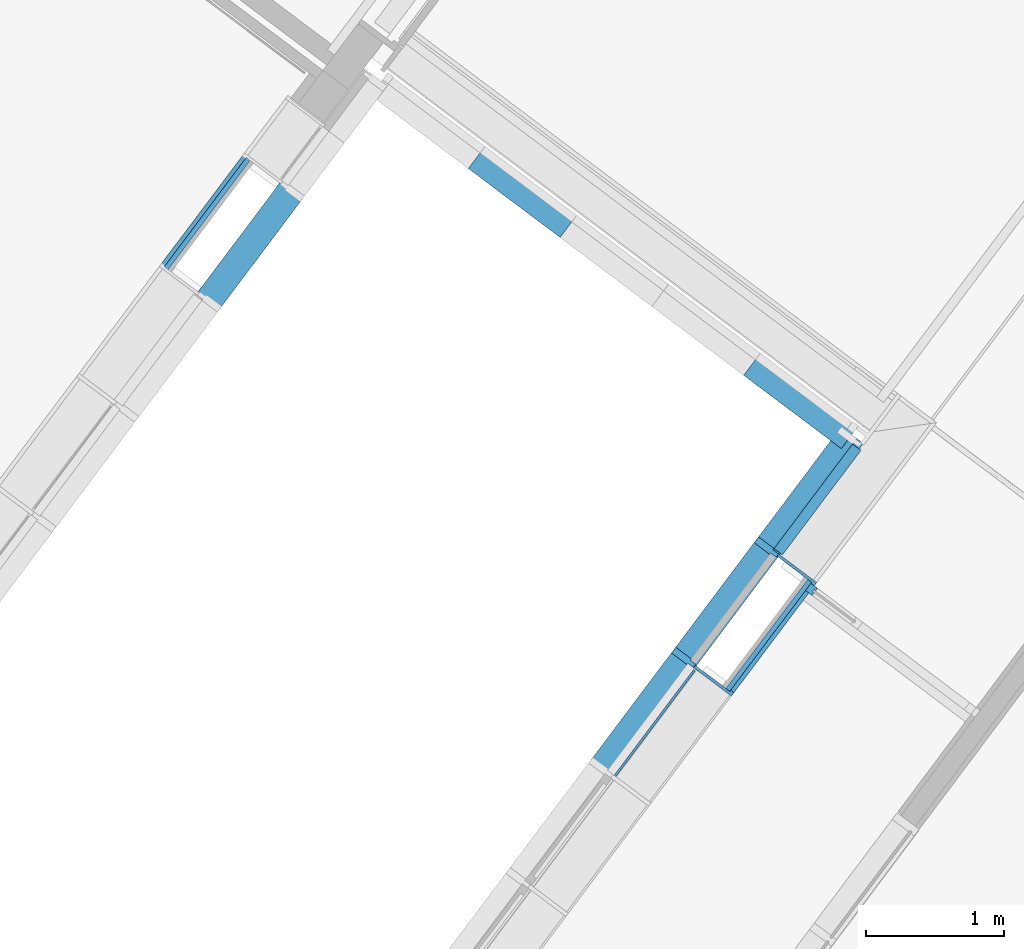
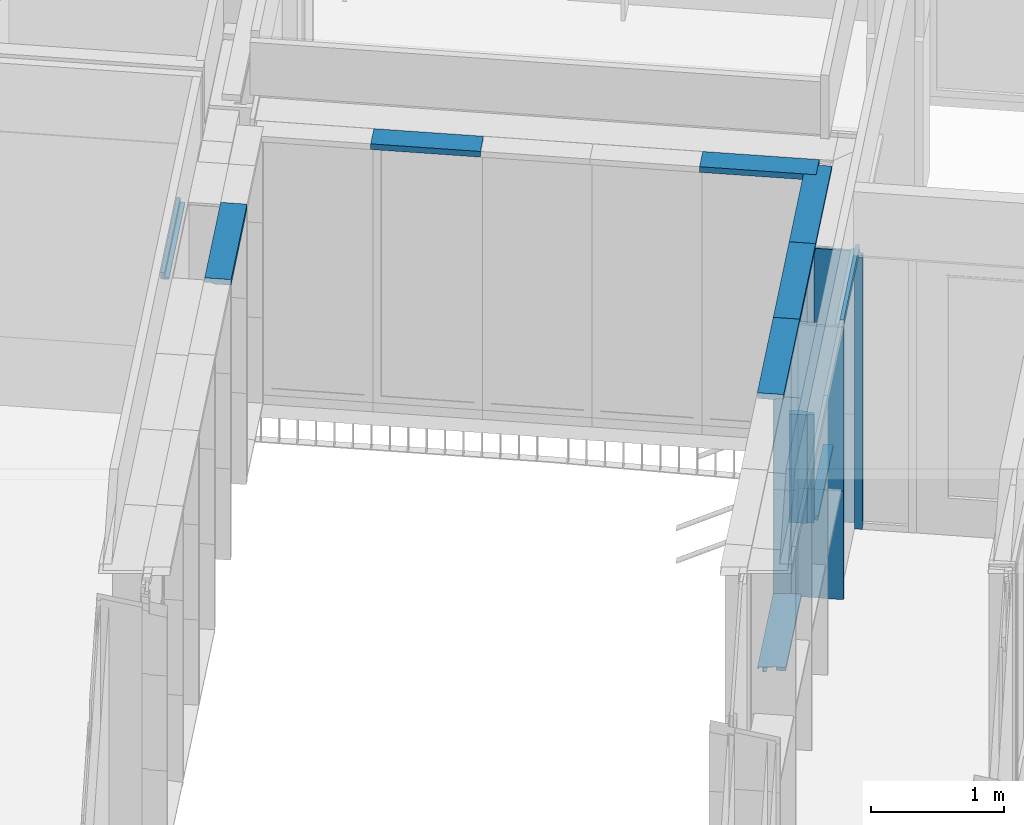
# One storey, part 68 of 243: 19 members, 6 elements without a shape of their own.
"""IFC2X3 building model written with IfcOpenShell, lengths in metres."""

import ifcopenshell
import ifcopenshell.guid

model = None  # the IFC model being written
_history = None  # IfcOwnerHistory: only IFC2X3 demands one
_inside = {}  # id of a spatial element -> (the spatial element, [elements in it])
_under = {}  # id of a project, library or spatial element -> (it, [spatial elements below it])
_declared = {}  # id of a project -> (the project, [libraries it declares])
_typed = {}  # id of a type object -> (the type object, [elements of that type])
_made_of = {}  # id of a material, layer set ... -> (it, [elements and type objects made of it])


def new_model(schema):
    """Start an empty IFC model of exactly this schema.

    Asked for "IFC4X3", IfcOpenShell would pick the latest addendum, in which some entities
    have other attributes; the version numbers below select the first issue.
    IFC2X3 requires an IfcOwnerHistory on every rooted entity: one is made here for all.
    """
    global model, _history
    if schema == "IFC4X3":
        model = ifcopenshell.file(schema_version=(4, 3, 0, 0))
    else:
        model = ifcopenshell.file(schema=schema)
    _inside.clear()
    _under.clear()
    _declared.clear()
    _typed.clear()
    _made_of.clear()
    _history = None
    if model.schema == "IFC2X3":
        org = make("IfcOrganization", Name="unknown")
        user = make(
            "IfcPersonAndOrganization",
            ThePerson=make("IfcPerson", FamilyName="unknown"),
            TheOrganization=org,
        )
        app = make(
            "IfcApplication",
            ApplicationDeveloper=org,
            Version="unknown",
            ApplicationFullName="unknown",
            ApplicationIdentifier="unknown",
        )
        _history = make(
            "IfcOwnerHistory",
            OwningUser=user,
            OwningApplication=app,
            ChangeAction="ADDED",
            CreationDate=0,
        )
    return model


def make(cls, **values):
    """One entity of the class cls with the attributes given. An attribute that is None is left unset."""
    return model.create_entity(
        cls, **{name: value for name, value in values.items() if value is not None}
    )


def entity(cls, *values):
    """Any entity or typed value of the class cls, its attributes in the order of the schema. None: left unset."""
    e = model.create_entity(cls)
    for i, value in enumerate(values):
        if value is not None:
            e[i] = value
    return e


def rooted(cls, **values):
    """An entity with a GlobalId (a new one), such as an element, a storey or a relation."""
    return make(cls, GlobalId=ifcopenshell.guid.new(), OwnerHistory=_history, **values)


def si_unit(unit_type, name, prefix=None):
    """IfcSIUnit, for example si_unit("LENGTHUNIT", "METRE", prefix="MILLI")."""
    return make("IfcSIUnit", UnitType=unit_type, Prefix=prefix, Name=name)


def converted_unit(unit_type, name, factor, base, dimensions=None, offset=None):
    """IfcConversionBasedUnit, such as the inch: factor (a typed value) times the base unit."""
    return make(
        "IfcConversionBasedUnit"
        if offset is None
        else "IfcConversionBasedUnitWithOffset",
        ConversionOffset=offset,
        Dimensions=None
        if dimensions is None
        else entity("IfcDimensionalExponents", *dimensions),
        UnitType=unit_type,
        Name=name,
        ConversionFactor=make(
            "IfcMeasureWithUnit", ValueComponent=factor, UnitComponent=base
        ),
    )


def derived_unit(unit_type, elements):
    """IfcDerivedUnit: a product of units, each with its exponent."""
    return make(
        "IfcDerivedUnit",
        Elements=[
            make("IfcDerivedUnitElement", Unit=unit, Exponent=power)
            for unit, power in elements
        ],
        UnitType=unit_type,
    )


def assignment(units):
    """IfcUnitAssignment: the units of a project."""
    return None if units is None else make("IfcUnitAssignment", Units=units)


def point(xyz):
    """IfcCartesianPoint."""
    return None if xyz is None else make("IfcCartesianPoint", Coordinates=xyz)


def direction(xyz):
    """IfcDirection."""
    return None if xyz is None else make("IfcDirection", DirectionRatios=xyz)


def frame(location, z_axis=None, x_axis=None):
    """IfcAxis2Placement3D, a coordinate frame: its origin and axes. An axis left out is left unset."""
    return make(
        "IfcAxis2Placement3D",
        Location=point(location),
        Axis=direction(z_axis),
        RefDirection=direction(x_axis),
    )


def frame_2d(location, x_axis=None):
    """IfcAxis2Placement2D, a coordinate frame in the plane: its origin and x axis."""
    return make(
        "IfcAxis2Placement2D", Location=point(location), RefDirection=direction(x_axis)
    )


def origin():
    """The frame at (0, 0, 0) with its axes left unset."""
    return frame((0.0, 0.0, 0.0))


def origin_2d_with_axis():
    """The frame at (0, 0) in the plane with the x axis (1, 0) written out."""
    return frame_2d((0.0, 0.0), x_axis=(1.0, 0.0))


def place(relative_to, where):
    """IfcLocalPlacement: puts the frame where relative to a parent placement (None: the world)."""
    return make(
        "IfcLocalPlacement", PlacementRelTo=relative_to, RelativePlacement=where
    )


def context(
    kind, dimensions, precision=None, world=None, true_north=None, identifier=None
):
    """IfcGeometricRepresentationContext, for example the 3D "Model" context."""
    return make(
        "IfcGeometricRepresentationContext",
        ContextIdentifier=identifier,
        ContextType=kind,
        CoordinateSpaceDimension=dimensions,
        Precision=precision,
        WorldCoordinateSystem=world,
        TrueNorth=true_north,
    )


def subcontext(parent, identifier, kind, view, scale=None):
    """IfcGeometricRepresentationSubContext, for example "Body" below "Model"."""
    return make(
        "IfcGeometricRepresentationSubContext",
        ContextIdentifier=identifier,
        ContextType=kind,
        ParentContext=parent,
        TargetScale=scale,
        TargetView=view,
    )


def project(units=None, contexts=None):
    """IfcProject with its units and contexts."""
    return rooted(
        "IfcProject",
        Name="project",
        RepresentationContexts=contexts,
        UnitsInContext=assignment(units),
    )


def spatial(cls, under=None, at=None, **own):
    """A site, building, storey or space (cls), placed at a placement, below another one or the project."""
    s = rooted(cls, ObjectPlacement=at, **own)
    if under is not None:
        _under.setdefault(under.id(), (under, []))[1].append(s)
    return s


def polyline(points):
    """IfcPolyline through the points."""
    return make("IfcPolyline", Points=[point(p) for p in points])


def circle_curve(where, radius):
    """IfcCircle in the frame where."""
    return make("IfcCircle", Position=where, Radius=radius)


def parameter(value):
    """IfcParameterValue: where a trimmed curve begins or ends, as a parameter of its basis curve."""
    return model.create_entity("IfcParameterValue", value)


def trimmed(basis, trim1, trim2, sense, master):
    """IfcTrimmedCurve: the piece of a basis curve between two trims."""
    return make(
        "IfcTrimmedCurve",
        BasisCurve=basis,
        Trim1=trim1,
        Trim2=trim2,
        SenseAgreement=sense,
        MasterRepresentation=master,
    )


def segment(curve, same_sense, transition):
    """IfcCompositeCurveSegment."""
    return make(
        "IfcCompositeCurveSegment",
        Transition=transition,
        SameSense=same_sense,
        ParentCurve=curve,
    )


def composite_curve(segments, self_intersect=None):
    """IfcCompositeCurve: segments joined end to end."""
    return make("IfcCompositeCurve", Segments=segments, SelfIntersect=self_intersect)


def profile(cls, at=None, kind="AREA", **sizes):
    """A parametric profile (cls). Its sizes go by their IFC names, for example OverallWidth=200.0."""
    return make(cls, ProfileType=kind, Position=at, **sizes)


def rectangle(**sizes):
    """IfcRectangleProfileDef."""
    return profile("IfcRectangleProfileDef", **sizes)


def outline(outer, holes=None, kind="AREA"):
    """IfcArbitraryClosedProfileDef: a profile drawn as a closed curve; with holes, ...WithVoids."""
    if holes is None:
        return make("IfcArbitraryClosedProfileDef", ProfileType=kind, OuterCurve=outer)
    return make(
        "IfcArbitraryProfileDefWithVoids",
        ProfileType=kind,
        OuterCurve=outer,
        InnerCurves=holes,
    )


def extrude(swept, where, along, depth):
    """IfcExtrudedAreaSolid: the profile swept, set in the frame where, extruded along a direction by depth."""
    return make(
        "IfcExtrudedAreaSolid",
        SweptArea=swept,
        Position=where,
        ExtrudedDirection=direction(along),
        Depth=depth,
    )


def shape(context_of_items, identifier, shape_type, items):
    """IfcShapeRepresentation: the items that make up one representation, for example the "Body"."""
    return make(
        "IfcShapeRepresentation",
        ContextOfItems=context_of_items,
        RepresentationIdentifier=identifier,
        RepresentationType=shape_type,
        Items=items,
    )


def source(mapping_origin, context_of_items, identifier, shape_type, items):
    """IfcRepresentationMap: a shape defined once, which mapped items show again and again."""
    return make(
        "IfcRepresentationMap",
        MappingOrigin=mapping_origin,
        MappedRepresentation=shape(context_of_items, identifier, shape_type, items),
    )


def transform(
    local_origin,
    x_axis=None,
    y_axis=None,
    z_axis=None,
    scale=None,
    scale2=None,
    scale3=None,
    uniform=True,
):
    """IfcCartesianTransformationOperator3D, or its non-uniform kind. x_axis, y_axis, z_axis: its Axis1, 2, 3."""
    if uniform:
        return make(
            "IfcCartesianTransformationOperator3D",
            Axis1=direction(x_axis),
            Axis2=direction(y_axis),
            LocalOrigin=point(local_origin),
            Scale=scale,
            Axis3=direction(z_axis),
        )
    return make(
        "IfcCartesianTransformationOperator3DnonUniform",
        Axis1=direction(x_axis),
        Axis2=direction(y_axis),
        LocalOrigin=point(local_origin),
        Scale=scale,
        Axis3=direction(z_axis),
        Scale2=scale2,
        Scale3=scale3,
    )


def mapped(mapping_source, mapping_target):
    """IfcMappedItem: shows the shape of a source again, moved by a transform."""
    return make(
        "IfcMappedItem", MappingSource=mapping_source, MappingTarget=mapping_target
    )


def material(Name=None, Category=None):
    """IfcMaterial."""
    return make("IfcMaterial", Name=Name, Category=Category)


def made_of(thing, what):
    """Note that an element or type object is made of a material, layer set ...; save() writes the relation."""
    if what is not None:
        _made_of.setdefault(what.id(), (what, []))[1].append(thing)
    return thing


def type_object(cls, material=None, **own):
    """A type object (cls), such as IfcWallType, which elements share."""
    return made_of(rooted(cls, **own), material)


def type_shapes(of_type, sources):
    """Give a type object the sources (RepresentationMaps) that its elements show as mapped items."""
    of_type.RepresentationMaps = sources


def element(
    cls,
    number,
    at=None,
    inside=None,
    cuts=None,
    type_object=None,
    material=None,
    context=None,
    identifier="Body",
    shape_type=None,
    held_by="IfcProductDefinitionShape",
    body=None,
    shapes=None,
    **own,
):
    """One element of the class cls, such as IfcWall. Its Tag is "e" and its number.

    at: its placement. inside: the storey or other place that contains it. cuts: it is an
    opening in that element (IfcRelVoidsElement). A single representation is given by context,
    identifier, shape_type and body (its items); several are given by shapes. held_by: the class
    of the entity that holds the representations. save() writes the other relations.
    """
    e = rooted(cls, Tag="e%d" % number, ObjectPlacement=at, **own)
    if body is not None:
        shapes = [shape(context, identifier, shape_type, body)]
    if shapes is not None:
        e.Representation = make(held_by, Representations=shapes)
    if inside is not None:
        _inside.setdefault(inside.id(), (inside, []))[1].append(e)
    if cuts is not None:
        rooted(
            "IfcRelVoidsElement", RelatingBuildingElement=cuts, RelatedOpeningElement=e
        )
    if type_object is not None:
        _typed.setdefault(type_object.id(), (type_object, []))[1].append(e)
    return made_of(e, material)


def aggregate(whole, parts):
    """IfcRelAggregates: a whole, such as a stair, and the parts it consists of."""
    return rooted("IfcRelAggregates", RelatingObject=whole, RelatedObjects=parts)


def save(model, path):
    """Write the relations noted so far, then the file.

    IfcRelAggregates (storeys below a building ...), IfcRelContainedInSpatialStructure (elements
    in a storey), IfcRelDefinesByType, IfcRelAssociatesMaterial and IfcRelDeclares: one each for
    every whole, place, type object, material and project.
    """
    for whole, parts in _under.values():
        aggregate(whole, parts)
    for where, things in _inside.values():
        rooted(
            "IfcRelContainedInSpatialStructure",
            RelatedElements=things,
            RelatingStructure=where,
        )
    for kind, things in _typed.values():
        rooted("IfcRelDefinesByType", RelatedObjects=things, RelatingType=kind)
    for what, things in _made_of.values():
        rooted("IfcRelAssociatesMaterial", RelatedObjects=things, RelatingMaterial=what)
    for by, libraries in _declared.values():
        rooted("IfcRelDeclares", RelatingContext=by, RelatedDefinitions=libraries)
    model.write(path)


model = new_model("IFC2X3")

# Units and contexts
model_context = context("Model", 3, precision=1e-05, world=origin(), true_north=direction((6.123031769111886e-17, 1.0)))
body_context = subcontext(model_context, "Body", "Model", "MODEL_VIEW")
ifc_project = project(units=[si_unit("LENGTHUNIT", "METRE"), si_unit("AREAUNIT", "SQUARE_METRE"), si_unit("VOLUMEUNIT", "CUBIC_METRE"), converted_unit("PLANEANGLEUNIT", "DEGREE", entity("IfcRatioMeasure", 0.017453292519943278), si_unit("PLANEANGLEUNIT", "RADIAN"), dimensions=[0, 0, 0, 0, 0, 0, 0]), si_unit("MASSUNIT", "GRAM", prefix="KILO"), derived_unit("MASSDENSITYUNIT", [(si_unit("MASSUNIT", "GRAM", prefix="KILO"), 1), (si_unit("LENGTHUNIT", "METRE"), -3)]), derived_unit("IONCONCENTRATIONUNIT", [(si_unit("MASSUNIT", "GRAM", prefix="KILO"), 1), (si_unit("LENGTHUNIT", "METRE"), -3)]), derived_unit("MOMENTOFINERTIAUNIT", [(si_unit("LENGTHUNIT", "METRE"), 4)]), si_unit("TIMEUNIT", "SECOND"), si_unit("FREQUENCYUNIT", "HERTZ"), si_unit("THERMODYNAMICTEMPERATUREUNIT", "DEGREE_CELSIUS"), derived_unit("THERMALTRANSMITTANCEUNIT", [(si_unit("MASSUNIT", "GRAM", prefix="KILO"), 1), (si_unit("THERMODYNAMICTEMPERATUREUNIT", "KELVIN"), -1), (si_unit("TIMEUNIT", "SECOND"), -3)]), derived_unit("THERMALCONDUCTANCEUNIT", [(si_unit("MASSUNIT", "GRAM", prefix="KILO"), 1), (si_unit("THERMODYNAMICTEMPERATUREUNIT", "KELVIN"), -1), (si_unit("TIMEUNIT", "SECOND"), -3), (si_unit("LENGTHUNIT", "METRE"), 1)]), derived_unit("VOLUMETRICFLOWRATEUNIT", [(si_unit("LENGTHUNIT", "METRE"), 3), (si_unit("TIMEUNIT", "SECOND"), -1)]), derived_unit("MASSFLOWRATEUNIT", [(si_unit("MASSUNIT", "GRAM", prefix="KILO"), 1), (si_unit("TIMEUNIT", "SECOND"), -1)]), derived_unit("ROTATIONALFREQUENCYUNIT", [(si_unit("TIMEUNIT", "SECOND"), -1)]), si_unit("ELECTRICCURRENTUNIT", "AMPERE"), si_unit("ELECTRICVOLTAGEUNIT", "VOLT"), si_unit("POWERUNIT", "WATT"), si_unit("FORCEUNIT", "NEWTON", prefix="KILO"), si_unit("ILLUMINANCEUNIT", "LUX"), si_unit("LUMINOUSFLUXUNIT", "LUMEN"), si_unit("LUMINOUSINTENSITYUNIT", "CANDELA"), derived_unit("USERDEFINED", [(si_unit("MASSUNIT", "GRAM", prefix="KILO"), -1), (si_unit("LENGTHUNIT", "METRE"), -2), (si_unit("TIMEUNIT", "SECOND"), 3), (si_unit("LUMINOUSFLUXUNIT", "LUMEN"), 1)]), derived_unit("USERDEFINED", [(si_unit("MASSUNIT", "GRAM", prefix="KILO"), 1), (si_unit("TIMEUNIT", "SECOND"), -3), (si_unit("LENGTHUNIT", "METRE"), 3), (si_unit("ELECTRICCURRENTUNIT", "AMPERE"), -2)]), derived_unit("SOUNDPOWERUNIT", [(si_unit("MASSUNIT", "GRAM", prefix="KILO"), 1), (si_unit("TIMEUNIT", "SECOND"), -3), (si_unit("LENGTHUNIT", "METRE"), 2)]), derived_unit("SOUNDPRESSUREUNIT", [(si_unit("MASSUNIT", "GRAM", prefix="KILO"), 1), (si_unit("LENGTHUNIT", "METRE"), -1), (si_unit("TIMEUNIT", "SECOND"), -2)]), derived_unit("LINEARVELOCITYUNIT", [(si_unit("LENGTHUNIT", "METRE"), 1), (si_unit("TIMEUNIT", "SECOND"), -1)]), si_unit("PRESSUREUNIT", "PASCAL"), derived_unit("USERDEFINED", [(si_unit("MASSUNIT", "GRAM", prefix="KILO"), 1), (si_unit("LENGTHUNIT", "METRE"), -2), (si_unit("TIMEUNIT", "SECOND"), -2)]), derived_unit("LINEARFORCEUNIT", [(si_unit("MASSUNIT", "GRAM", prefix="KILO"), 1), (si_unit("TIMEUNIT", "SECOND"), -2)]), derived_unit("PLANARFORCEUNIT", [(si_unit("MASSUNIT", "GRAM", prefix="KILO"), 1), (si_unit("LENGTHUNIT", "METRE"), -1), (si_unit("TIMEUNIT", "SECOND"), -2)]), derived_unit("SPECIFICHEATCAPACITYUNIT", [(si_unit("THERMODYNAMICTEMPERATUREUNIT", "KELVIN"), -1), (si_unit("LENGTHUNIT", "METRE"), 2), (si_unit("TIMEUNIT", "SECOND"), -2)]), derived_unit("HEATINGVALUEUNIT", [(si_unit("LENGTHUNIT", "METRE"), 2), (si_unit("TIMEUNIT", "SECOND"), -2)]), derived_unit("VAPORPERMEABILITYUNIT", [(si_unit("LENGTHUNIT", "METRE"), -1), (si_unit("TIMEUNIT", "SECOND"), 1)]), derived_unit("DYNAMICVISCOSITYUNIT", [(si_unit("MASSUNIT", "GRAM", prefix="KILO"), 1), (si_unit("TIMEUNIT", "SECOND"), -1), (si_unit("LENGTHUNIT", "METRE"), -1)]), derived_unit("THERMALEXPANSIONCOEFFICIENTUNIT", [(si_unit("THERMODYNAMICTEMPERATUREUNIT", "KELVIN"), -1)]), derived_unit("MODULUSOFELASTICITYUNIT", [(si_unit("MASSUNIT", "GRAM", prefix="KILO"), 1), (si_unit("LENGTHUNIT", "METRE"), -1), (si_unit("TIMEUNIT", "SECOND"), -2)]), derived_unit("ISOTHERMALMOISTURECAPACITYUNIT", [(si_unit("LENGTHUNIT", "METRE"), 3), (si_unit("MASSUNIT", "GRAM", prefix="KILO"), -1)]), derived_unit("MOISTUREDIFFUSIVITYUNIT", [(si_unit("TIMEUNIT", "SECOND"), -1), (si_unit("LENGTHUNIT", "METRE"), 2)])], contexts=[model_context])

# Site, building, storey
site_placement = place(None, frame((0.0, 0.0, 235.0), z_axis=(0.0, 0.0, 1.0), x_axis=(-0.7996477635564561, 0.6004693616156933, 0.0)))
site = spatial("IfcSite", under=ifc_project, at=site_placement, Name="Default", CompositionType="ELEMENT")
building_placement = place(site_placement, origin())
building = spatial("IfcBuilding", under=site, at=building_placement, CompositionType="ELEMENT")
storey_placement = place(building_placement, origin())
storey = spatial("IfcBuildingStorey", under=building, at=storey_placement, Name="P0- Escola", CompositionType="ELEMENT", Elevation=0.0)

# Curtain wall, member
curtain_wall_type_1 = type_object("IfcCurtainWallType", Name="Muro cortina:MC- EXT- MC2", PredefinedType="NOTDEFINED")
curtain_wall_1_placement = place(storey_placement, origin())
curtain_wall_1 = element("IfcCurtainWall", 1, at=curtain_wall_1_placement, inside=storey, type_object=curtain_wall_type_1, Name="Muro cortina:MC- EXT- MC2", ObjectType="Muro cortina:MC- EXT- MC2")
ifc_material_1 = material(Name="_Alumini- T1- Perfil")
member_type_1 = type_object("IfcMemberType", Name="Montante rectangular:MC- Alu- 140x52,5 cm- Fa patis- Superior", PredefinedType="MULLION", material=ifc_material_1)
shared_shape_1 = source(origin(), body_context, "Body", "SweptSolid", [
    extrude(outline(polyline([(-0.11366666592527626, -0.021249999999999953), (0.026333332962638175, -0.021249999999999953), (0.026333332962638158, -0.010000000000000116), (0.0873333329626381, -0.010000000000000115), (0.0873333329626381, 0.03125000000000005), (-0.11366666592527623, 0.031250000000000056), (-0.11366666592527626, -0.021249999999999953)])), frame((-0.031250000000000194, 0.0273333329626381, -1.0), z_axis=(0.0, 0.0, 1.0), x_axis=(0.0, -1.0, 0.0)), (0.0, 0.0, 1.0), 0.9999999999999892),
])
type_shapes(member_type_1, [shared_shape_1])
member_1_placement = place(curtain_wall_1_placement, frame((41.04514768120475, -35.415191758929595, 2.545), z_axis=(0.0, -1.0, 0.0), x_axis=(0.0, 0.0, 1.0)))
member_1 = element("IfcMember", 2, at=member_1_placement, type_object=member_type_1, material=ifc_material_1, Name="Montante rectangular:MC- Alu- 140x52,5 cm- Fa patis- Superior", ObjectType="Montante rectangular:MC- Alu- 140x52,5 cm- Fa patis- Superior", context=body_context, shape_type="MappedRepresentation", body=[
    mapped(shared_shape_1, transform((0.0, 0.0, 0.0), scale=1.0)),
])
aggregate(curtain_wall_1, [member_1])

curtain_wall_type_2 = type_object("IfcCurtainWallType", Name="Muro cortina:MC- INT- k7- Aules infantil", PredefinedType="NOTDEFINED")
curtain_wall_2_placement = place(storey_placement, origin())
curtain_wall_2 = element("IfcCurtainWall", 3, at=curtain_wall_2_placement, inside=storey, type_object=curtain_wall_type_2, Name="Muro cortina:MC- INT- k7- Aules infantil", ObjectType="Muro cortina:MC- INT- k7- Aules infantil")
ifc_material_2 = material(Name="_Fusta massisa- T1")
member_type_2 = type_object("IfcMemberType", Name="Montante rectangular:MC- Fusta- 35x3 cm- Pati aules- Remat superior pilar", PredefinedType="MULLION", material=ifc_material_2)
shared_shape_2 = source(origin(), body_context, "Body", "SweptSolid", [
    extrude(outline(polyline([(-0.03333333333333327, -0.02666666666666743), (0.031666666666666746, -0.02666666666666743), (0.031666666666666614, 0.03333333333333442), (0.0016666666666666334, 0.033333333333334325), (0.0016666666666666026, -0.006666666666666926), (-0.03333333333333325, -0.00666666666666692), (-0.03333333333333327, -0.02666666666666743)])), frame((-0.03333333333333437, -0.06333333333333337, -1.0), z_axis=(0.0, 0.0, 1.0), x_axis=(0.0, -1.0, 0.0)), (0.0, 0.0, 1.0), 0.9999999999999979),
])
type_shapes(member_type_2, [shared_shape_2])
member_2_placement = place(curtain_wall_2_placement, frame((41.345147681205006, -35.415191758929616, 2.565), z_axis=(0.0, -1.0, 0.0), x_axis=(0.0, 0.0, 1.0)))
member_2 = element("IfcMember", 4, at=member_2_placement, type_object=member_type_2, material=ifc_material_2, Name="Montante rectangular:MC- Fusta- 35x3 cm- Pati aules- Remat superior pilar", ObjectType="Montante rectangular:MC- Fusta- 35x3 cm- Pati aules- Remat superior pilar", context=body_context, shape_type="MappedRepresentation", body=[
    mapped(shared_shape_2, transform((0.0, 0.0, 0.0), scale=1.0)),
])
aggregate(curtain_wall_2, [member_2])

# Curtain wall, members
curtain_wall_type_3 = type_object("IfcCurtainWallType", Name="Muro cortina:MC- INT- k2", PredefinedType="NOTDEFINED")
curtain_wall_3_placement = place(storey_placement, origin())
curtain_wall_3 = element("IfcCurtainWall", 5, at=curtain_wall_3_placement, inside=storey, type_object=curtain_wall_type_3, Name="Muro cortina:MC- INT- k2", ObjectType="Muro cortina:MC- INT- k2")
member_type_3 = type_object("IfcMemberType", Name="Montante rectangular:MC- Fusta- 35x3 cm- Pati aules- Remat dreta", PredefinedType="MULLION", material=ifc_material_2)
shared_shape_3 = source(origin(), body_context, "Body", "SweptSolid", [
    extrude(outline(polyline([(-0.12500000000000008, -0.01666666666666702), (0.22, -0.01666666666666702), (0.22000000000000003, 0.003333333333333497), (-0.09499999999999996, 0.003333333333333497), (-0.09499999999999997, 0.013333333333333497), (-0.12500000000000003, 0.013333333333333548), (-0.12500000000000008, -0.01666666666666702)])), frame((0.00166666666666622, -0.03000000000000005, -1.0), z_axis=(0.0, 0.0, 1.0), x_axis=(0.0, -1.0, 0.0)), (0.0, 0.0, 1.0), 1.0),
])
type_shapes(member_type_3, [shared_shape_3])
member_3_placement = place(curtain_wall_3_placement, frame((36.34514768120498, -34.41519175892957, 0.0), z_axis=(0.0, 0.0, -1.0), x_axis=(0.0, -1.0, 0.0)))
member_3 = element("IfcMember", 6, at=member_3_placement, type_object=member_type_3, material=ifc_material_2, Name="Montante rectangular:MC- Fusta- 35x3 cm- Pati aules- Remat dreta", ObjectType="Montante rectangular:MC- Fusta- 35x3 cm- Pati aules- Remat dreta", context=body_context, shape_type="MappedRepresentation", body=[
    mapped(shared_shape_3, transform((0.0, 0.0, 0.0), scale=1.0)),
])
member_type_4 = type_object("IfcMemberType", Name="Montante rectangular:MC- Fusta- 35x3 cm- Pati aules- Remat superior pilar", PredefinedType="MULLION", material=ifc_material_2)
shared_shape_4 = source(origin(), body_context, "Body", "SweptSolid", [
    extrude(outline(polyline([(-0.03166666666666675, -0.02666666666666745), (0.03333333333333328, -0.02666666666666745), (0.03333333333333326, -0.00666666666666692), (-0.0016666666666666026, -0.006666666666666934), (-0.0016666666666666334, 0.03333333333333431), (-0.03166666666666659, 0.03333333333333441), (-0.03166666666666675, -0.02666666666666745)])), frame((-0.03333333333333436, 0.06333333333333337, -1.0), z_axis=(0.0, 0.0, 1.0), x_axis=(0.0, -1.0, 0.0)), (0.0, 0.0, 1.0), 0.9999999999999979),
])
type_shapes(member_type_4, [shared_shape_4])
member_4_placement = place(curtain_wall_3_placement, frame((36.34514768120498, -35.41519175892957, 2.565), z_axis=(0.0, -1.0, 0.0), x_axis=(0.0, 0.0, 1.0)))
member_4 = element("IfcMember", 7, at=member_4_placement, type_object=member_type_4, material=ifc_material_2, Name="Montante rectangular:MC- Fusta- 35x3 cm- Pati aules- Remat superior pilar", ObjectType="Montante rectangular:MC- Fusta- 35x3 cm- Pati aules- Remat superior pilar", context=body_context, shape_type="MappedRepresentation", body=[
    mapped(shared_shape_4, transform((0.0, 0.0, 0.0), scale=1.0)),
])
member_type_5 = type_object("IfcMemberType", Name="Montante rectangular:MC- Fusta- 35x3 cm- Pati aules- Remat esquerra", PredefinedType="MULLION", material=ifc_material_2)
shared_shape_5 = source(origin(), body_context, "Body", "SweptSolid", [
    extrude(outline(polyline([(-0.12500000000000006, -0.013333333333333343), (-0.09500000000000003, -0.013333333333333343), (-0.09499999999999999, -0.0033333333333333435), (0.22000000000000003, -0.003333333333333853), (0.22000000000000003, 0.016666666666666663), (-0.12500000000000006, 0.01666666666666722), (-0.12500000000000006, -0.013333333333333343)])), frame((-0.00166666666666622, -0.03000000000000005, -1.0), z_axis=(0.0, 0.0, 1.0), x_axis=(0.0, -1.0, 0.0)), (0.0, 0.0, 1.0), 1.0),
])
type_shapes(member_type_5, [shared_shape_5])
member_5_placement = place(curtain_wall_3_placement, frame((36.34514768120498, -35.41519175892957, 0.0), z_axis=(0.0, 0.0, -1.0), x_axis=(0.0, -1.0, 0.0)))
member_5 = element("IfcMember", 8, at=member_5_placement, type_object=member_type_5, material=ifc_material_2, Name="Montante rectangular:MC- Fusta- 35x3 cm- Pati aules- Remat esquerra", ObjectType="Montante rectangular:MC- Fusta- 35x3 cm- Pati aules- Remat esquerra", context=body_context, shape_type="MappedRepresentation", body=[
    mapped(shared_shape_5, transform((0.0, 0.0, 0.0), scale=1.0)),
])
member_type_6 = type_object("IfcMemberType", Name="Montante rectangular:MC- Fusta- 35x3 cm- Pati aules- Remat dreta", PredefinedType="MULLION", material=ifc_material_2)
shared_shape_6 = source(origin(), body_context, "Body", "SweptSolid", [
    extrude(outline(polyline([(-0.12500000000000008, -0.01666666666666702), (0.22, -0.01666666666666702), (0.22000000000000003, 0.003333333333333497), (-0.09499999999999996, 0.003333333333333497), (-0.09499999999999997, 0.013333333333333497), (-0.12500000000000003, 0.013333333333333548), (-0.12500000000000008, -0.01666666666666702)])), frame((0.00166666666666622, -0.03000000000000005, -1.504999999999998), z_axis=(0.0, 0.0, 1.0), x_axis=(0.0, -1.0, 0.0)), (0.0, 0.0, 1.0), 1.504999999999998),
])
type_shapes(member_type_6, [shared_shape_6])
member_6_placement = place(curtain_wall_3_placement, frame((36.34514768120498, -34.41519175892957, 1.0), z_axis=(0.0, 0.0, -1.0), x_axis=(0.0, -1.0, 0.0)))
member_6 = element("IfcMember", 9, at=member_6_placement, type_object=member_type_6, material=ifc_material_2, Name="Montante rectangular:MC- Fusta- 35x3 cm- Pati aules- Remat dreta", ObjectType="Montante rectangular:MC- Fusta- 35x3 cm- Pati aules- Remat dreta", context=body_context, shape_type="MappedRepresentation", body=[
    mapped(shared_shape_6, transform((0.0, 0.0, 0.0), scale=1.0)),
])
member_type_7 = type_object("IfcMemberType", Name="Montante rectangular:MC- Fusta- 35x3 cm- Pati aules- Remat esquerra", PredefinedType="MULLION", material=ifc_material_2)
shared_shape_7 = source(origin(), body_context, "Body", "SweptSolid", [
    extrude(outline(polyline([(-0.12500000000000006, -0.013333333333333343), (-0.09500000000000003, -0.013333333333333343), (-0.09499999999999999, -0.0033333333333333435), (0.22000000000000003, -0.003333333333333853), (0.22000000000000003, 0.016666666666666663), (-0.12500000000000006, 0.01666666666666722), (-0.12500000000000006, -0.013333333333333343)])), frame((-0.00166666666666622, -0.03000000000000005, -1.504999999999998), z_axis=(0.0, 0.0, 1.0), x_axis=(0.0, -1.0, 0.0)), (0.0, 0.0, 1.0), 1.504999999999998),
])
type_shapes(member_type_7, [shared_shape_7])
member_7_placement = place(curtain_wall_3_placement, frame((36.34514768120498, -35.41519175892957, 1.0), z_axis=(0.0, 0.0, -1.0), x_axis=(0.0, -1.0, 0.0)))
member_7 = element("IfcMember", 10, at=member_7_placement, type_object=member_type_7, material=ifc_material_2, Name="Montante rectangular:MC- Fusta- 35x3 cm- Pati aules- Remat esquerra", ObjectType="Montante rectangular:MC- Fusta- 35x3 cm- Pati aules- Remat esquerra", context=body_context, shape_type="MappedRepresentation", body=[
    mapped(shared_shape_7, transform((0.0, 0.0, 0.0), scale=1.0)),
])
aggregate(curtain_wall_3, [member_3, member_4, member_5, member_6, member_7])

curtain_wall_type_4 = type_object("IfcCurtainWallType", Name="Muro cortina:MC- EXT- MC5", PredefinedType="NOTDEFINED")
curtain_wall_4_placement = place(storey_placement, origin())
curtain_wall_4 = element("IfcCurtainWall", 11, at=curtain_wall_4_placement, inside=storey, type_object=curtain_wall_type_4, Name="Muro cortina:MC- EXT- MC5", ObjectType="Muro cortina:MC- EXT- MC5")
member_type_8 = type_object("IfcMemberType", Name="Montante rectangular:MC- Alu- 140x52,5 cm- Fa patis- Superior", PredefinedType="MULLION", material=ifc_material_1)
shared_shape_8 = source(origin(), body_context, "Body", "SweptSolid", [
    extrude(outline(polyline([(-0.026333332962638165, -0.021249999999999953), (0.11366666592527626, -0.021249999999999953), (0.11366666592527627, 0.031250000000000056), (-0.08733333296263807, 0.03125000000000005), (-0.0873333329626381, -0.010000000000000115), (-0.026333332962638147, -0.010000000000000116), (-0.026333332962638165, -0.021249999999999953)])), frame((-0.031250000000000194, -0.02733333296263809, -1.0), z_axis=(0.0, 0.0, 1.0), x_axis=(0.0, -1.0, 0.0)), (0.0, 0.0, 1.0), 1.0000000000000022),
])
type_shapes(member_type_8, [shared_shape_8])
member_8_placement = place(curtain_wall_4_placement, frame((36.64514768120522, -35.415191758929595, 2.545), z_axis=(0.0, -1.0, 0.0), x_axis=(0.0, 0.0, 1.0)))
member_8 = element("IfcMember", 12, at=member_8_placement, type_object=member_type_8, material=ifc_material_1, Name="Montante rectangular:MC- Alu- 140x52,5 cm- Fa patis- Superior", ObjectType="Montante rectangular:MC- Alu- 140x52,5 cm- Fa patis- Superior", context=body_context, shape_type="MappedRepresentation", body=[
    mapped(shared_shape_8, transform((0.0, 0.0, 0.0), scale=1.0)),
])
member_9_placement = place(curtain_wall_4_placement, frame((36.64514768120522, -34.41519175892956, 2.545), z_axis=(0.0, -1.0, 0.0), x_axis=(0.0, 0.0, 1.0)))
member_9 = element("IfcMember", 13, at=member_9_placement, type_object=member_type_8, material=ifc_material_1, Name="Montante rectangular:MC- Alu- 140x52,5 cm- Fa patis- Superior", ObjectType="Montante rectangular:MC- Alu- 140x52,5 cm- Fa patis- Superior", context=body_context, shape_type="MappedRepresentation", body=[
    mapped(shared_shape_8, transform((0.0, 0.0, 0.0), scale=1.0)),
])
member_type_9 = type_object("IfcMemberType", Name="Montante rectangular:MC- Alu- 140x52,5 cm- Fa patis- inferior", PredefinedType="MULLION", material=ifc_material_1)
shared_shape_9 = source(origin(), body_context, "Body", "SweptSolid", [
    extrude(outline(composite_curve([segment(polyline([(-0.144167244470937, -0.025867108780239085), (-0.12786724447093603, -0.02586710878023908)]), True, "CONTINUOUS"), segment(polyline([(-0.12786724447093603, -0.02586710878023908), (-0.12786724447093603, -0.023167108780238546)]), True, "CONTINUOUS"), segment(polyline([(-0.12786724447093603, -0.023167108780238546), (-0.0678672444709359, -0.023167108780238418)]), True, "CONTINUOUS"), segment(polyline([(-0.0678672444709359, -0.023167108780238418), (0.07031215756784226, -0.010722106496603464)]), True, "CONTINUOUS"), segment(trimmed(circle_curve(frame_2d((0.07013275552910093, -0.008730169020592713), x_axis=(0.0897010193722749, -0.9959687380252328)), 0.0019999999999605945), [parameter(0.0)], [parameter(84.8535928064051)], True, "PARAMETER"), True, "CONTINUOUS"), segment(polyline([(0.07213275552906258, -0.008730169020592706), (0.07213275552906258, 0.006266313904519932)]), True, "CONTINUOUS"), segment(trimmed(circle_curve(frame_2d((0.07013275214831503, 0.006266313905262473), x_axis=(1.0, 0.0)), 0.0020000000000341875), [parameter(0.0)], [parameter(90.00000002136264)], True, "PARAMETER"), True, "CONTINUOUS"), segment(polyline([(0.070132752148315, 0.008266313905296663), (0.06213275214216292, 0.008266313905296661)]), True, "CONTINUOUS"), segment(polyline([(0.06213275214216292, 0.008266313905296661), (0.06213275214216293, 0.006266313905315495)]), True, "CONTINUOUS"), segment(polyline([(0.06213275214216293, 0.006266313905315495), (0.06963275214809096, 0.006266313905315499)]), True, "CONTINUOUS"), segment(trimmed(circle_curve(frame_2d((0.06963275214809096, 0.005766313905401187), x_axis=(0.0, 1.0)), 0.0004999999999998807), [parameter(269.9999999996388)], [parameter(0.0)], True, "PARAMETER"), False, "CONTINUOUS"), segment(polyline([(0.07013275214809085, 0.005766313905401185), (0.07013275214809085, -0.008730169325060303)]), True, "CONTINUOUS"), segment(polyline([(0.07013275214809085, -0.008730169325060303), (0.03213275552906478, -0.012152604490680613)]), True, "CONTINUOUS"), segment(polyline([(0.03213275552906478, -0.0121526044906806), (0.03213275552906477, 0.029132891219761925)]), True, "CONTINUOUS"), segment(polyline([(0.03213275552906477, 0.029132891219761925), (0.0021327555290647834, 0.029132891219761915)]), True, "CONTINUOUS"), segment(polyline([(0.0021327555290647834, 0.029132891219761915), (0.0021327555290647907, 0.02713289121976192)]), True, "CONTINUOUS"), segment(polyline([(0.0021327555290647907, 0.02713289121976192), (0.03013275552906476, 0.02713289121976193)]), True, "CONTINUOUS"), segment(polyline([(0.03013275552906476, 0.027132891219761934), (0.03013275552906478, -0.012332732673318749)]), True, "CONTINUOUS"), segment(polyline([(0.03013275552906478, -0.012332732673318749), (-0.06786724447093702, -0.021159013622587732)]), True, "CONTINUOUS"), segment(polyline([(-0.06786724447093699, -0.02115901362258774), (-0.067867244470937, 0.009132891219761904)]), True, "CONTINUOUS"), segment(polyline([(-0.06786724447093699, 0.009132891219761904), (-0.14416724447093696, 0.009132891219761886)]), True, "CONTINUOUS"), segment(polyline([(-0.14416724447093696, 0.009132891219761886), (-0.144167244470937, -0.025867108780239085)]), True, "CONTINUOUS")], self_intersect=False)), frame((-0.029132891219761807, -0.06786724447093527, -0.9737499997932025), z_axis=(0.0, 0.0, 1.0), x_axis=(0.0, -1.0, 0.0)), (0.0, 0.0, 1.0), 0.9737499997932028),
])
type_shapes(member_type_9, [shared_shape_9])
member_10_placement = place(curtain_wall_4_placement, frame((36.64514768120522, -33.415191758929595, -0.02), z_axis=(0.0, 1.0, 0.0), x_axis=(0.0, 0.0, -1.0)))
member_10 = element("IfcMember", 14, at=member_10_placement, type_object=member_type_9, material=ifc_material_1, Name="Montante rectangular:MC- Alu- 140x52,5 cm- Fa patis- inferior", ObjectType="Montante rectangular:MC- Alu- 140x52,5 cm- Fa patis- inferior", context=body_context, shape_type="MappedRepresentation", body=[
    mapped(shared_shape_9, transform((0.0, 0.0, 0.0), scale=1.0)),
])
member_type_10 = type_object("IfcMemberType", Name="Montante rectangular:MC- Alu- 140x52,5 cm- Fa patis- Superior", PredefinedType="MULLION", material=ifc_material_1)
shared_shape_10 = source(origin(), body_context, "Body", "SweptSolid", [
    extrude(outline(polyline([(-0.026333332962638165, -0.021249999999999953), (0.11366666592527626, -0.021249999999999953), (0.11366666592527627, 0.031250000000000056), (-0.08733333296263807, 0.03125000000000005), (-0.0873333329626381, -0.010000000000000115), (-0.026333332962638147, -0.010000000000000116), (-0.026333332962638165, -0.021249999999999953)])), frame((-0.031250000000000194, -0.02733333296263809, -1.0262500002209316), z_axis=(0.0, 0.0, 1.0), x_axis=(0.0, -1.0, 0.0)), (0.0, 0.0, 1.0), 1.0262500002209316),
])
type_shapes(member_type_10, [shared_shape_10])
member_11_placement = place(curtain_wall_4_placement, frame((36.64514768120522, -36.44138994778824, 2.545), z_axis=(0.0, -1.0, 0.0), x_axis=(0.0, 0.0, 1.0)))
member_11 = element("IfcMember", 15, at=member_11_placement, type_object=member_type_10, material=ifc_material_1, Name="Montante rectangular:MC- Alu- 140x52,5 cm- Fa patis- Superior", ObjectType="Montante rectangular:MC- Alu- 140x52,5 cm- Fa patis- Superior", context=body_context, shape_type="MappedRepresentation", body=[
    mapped(shared_shape_10, transform((0.0, 0.0, 0.0), scale=1.0)),
])
member_type_11 = type_object("IfcMemberType", Name="Montante rectangular:MC- Alu- 140x52,5 cm- Fa patis- inferior porta", PredefinedType="MULLION", material=ifc_material_1)
shared_shape_11 = source(origin(), body_context, "Body", "SweptSolid", [
    extrude(rectangle(XDim=0.07629999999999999, YDim=0.04, at=origin_2d_with_axis()), frame((-0.020000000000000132, 0.03815000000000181, -0.9474481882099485), z_axis=(0.0, 0.0, 1.0), x_axis=(0.0, -1.0, 0.0)), (0.0, 0.0, 1.0), 0.947448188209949),
])
type_shapes(member_type_11, [shared_shape_11])
member_12_placement = place(curtain_wall_4_placement, frame((36.64514768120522, -35.4414417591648, -0.02), z_axis=(0.0, 1.0, 0.0), x_axis=(0.0, 0.0, -1.0)))
member_12 = element("IfcMember", 16, at=member_12_placement, type_object=member_type_11, material=ifc_material_1, Name="Montante rectangular:MC- Alu- 140x52,5 cm- Fa patis- inferior porta", ObjectType="Montante rectangular:MC- Alu- 140x52,5 cm- Fa patis- inferior porta", context=body_context, shape_type="MappedRepresentation", body=[
    mapped(shared_shape_11, transform((0.0, 0.0, 0.0), scale=1.0)),
])
member_type_12 = type_object("IfcMemberType", Name="Montante rectangular:MC- Alu- 140x52,5 cm- Fa patis- Centre", PredefinedType="MULLION", material=ifc_material_1)
shared_shape_12 = source(origin(), body_context, "Body", "SweptSolid", [
    extrude(outline(polyline([(-0.021999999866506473, -0.026250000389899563), (0.11699999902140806, -0.026250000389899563), (0.11699999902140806, 0.026250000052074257), (-0.022000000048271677, 0.026250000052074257), (-0.022000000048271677, 0.015000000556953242), (-0.07299999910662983, 0.015000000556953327), (-0.07299999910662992, -0.01500000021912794), (-0.021999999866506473, -0.01500000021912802), (-0.021999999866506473, -0.026250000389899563)])), frame((0.0, -0.022999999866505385, -1.0), z_axis=(0.0, 0.0, 1.0), x_axis=(0.0, -1.0, 0.0)), (0.0, 0.0, 1.0), 1.0),
])
type_shapes(member_type_12, [shared_shape_12])
member_13_placement = place(curtain_wall_4_placement, frame((36.64514768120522, -34.41519175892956, -0.02), z_axis=(0.0, 0.0, -1.0), x_axis=(0.0, -1.0, 0.0)))
member_13 = element("IfcMember", 17, at=member_13_placement, type_object=member_type_12, material=ifc_material_1, Name="Montante rectangular:MC- Alu- 140x52,5 cm- Fa patis- Centre", ObjectType="Montante rectangular:MC- Alu- 140x52,5 cm- Fa patis- Centre", context=body_context, shape_type="MappedRepresentation", body=[
    mapped(shared_shape_12, transform((0.0, 0.0, 0.0), scale=1.0)),
])
member_type_13 = type_object("IfcMemberType", Name="Montante rectangular:MC- Alu- 140x52,5 cm- Fa patis- Centre", PredefinedType="MULLION", material=ifc_material_1)
shared_shape_13 = source(origin(), body_context, "Body", "SweptSolid", [
    extrude(outline(polyline([(-0.021999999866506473, -0.026250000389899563), (0.11699999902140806, -0.026250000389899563), (0.11699999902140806, 0.026250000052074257), (-0.022000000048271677, 0.026250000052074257), (-0.022000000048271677, 0.015000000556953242), (-0.07299999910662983, 0.015000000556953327), (-0.07299999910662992, -0.01500000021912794), (-0.021999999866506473, -0.01500000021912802), (-0.021999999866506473, -0.026250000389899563)])), frame((0.0, -0.022999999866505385, -1.5124999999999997), z_axis=(0.0, 0.0, 1.0), x_axis=(0.0, -1.0, 0.0)), (0.0, 0.0, 1.0), 1.5124999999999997),
])
type_shapes(member_type_13, [shared_shape_13])
member_14_placement = place(curtain_wall_4_placement, frame((36.64514768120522, -34.41519175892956, 0.98), z_axis=(0.0, 0.0, -1.0), x_axis=(0.0, -1.0, 0.0)))
member_14 = element("IfcMember", 18, at=member_14_placement, type_object=member_type_13, material=ifc_material_1, Name="Montante rectangular:MC- Alu- 140x52,5 cm- Fa patis- Centre", ObjectType="Montante rectangular:MC- Alu- 140x52,5 cm- Fa patis- Centre", context=body_context, shape_type="MappedRepresentation", body=[
    mapped(shared_shape_13, transform((0.0, 0.0, 0.0), scale=1.0)),
])
member_15_placement = place(curtain_wall_4_placement, frame((36.64514768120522, -35.415191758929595, 0.98), z_axis=(0.0, 0.0, -1.0), x_axis=(0.0, -1.0, 0.0)))
member_15 = element("IfcMember", 19, at=member_15_placement, type_object=member_type_13, material=ifc_material_1, Name="Montante rectangular:MC- Alu- 140x52,5 cm- Fa patis- Centre", ObjectType="Montante rectangular:MC- Alu- 140x52,5 cm- Fa patis- Centre", context=body_context, shape_type="MappedRepresentation", body=[
    mapped(shared_shape_13, transform((0.0, 0.0, 0.0), scale=1.0)),
])
member_type_14 = type_object("IfcMemberType", Name="Montante rectangular:MC- Alu- 140x52,5 cm- Fa patis- Centre", PredefinedType="MULLION", material=ifc_material_1)
shared_shape_14 = source(origin(), body_context, "Body", "SweptSolid", [
    extrude(outline(polyline([(-0.021999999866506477, -0.026250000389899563), (0.11699999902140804, -0.026250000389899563), (0.11699999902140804, 0.026250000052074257), (-0.02200000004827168, 0.026250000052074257), (-0.02200000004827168, 0.015000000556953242), (-0.07299999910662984, 0.015000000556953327), (-0.07299999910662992, -0.01500000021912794), (-0.021999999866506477, -0.01500000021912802), (-0.021999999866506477, -0.026250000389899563)])), frame((0.0, -0.022999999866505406, -1.0), z_axis=(0.0, 0.0, 1.0), x_axis=(0.0, -1.0, 0.0)), (0.0, 0.0, 1.0), 1.0),
])
type_shapes(member_type_14, [shared_shape_14])
member_16_placement = place(curtain_wall_4_placement, frame((36.64514768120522, -35.415191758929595, -0.02), z_axis=(0.0, 0.0, -1.0), x_axis=(0.0, -1.0, 0.0)))
member_16 = element("IfcMember", 20, at=member_16_placement, type_object=member_type_14, material=ifc_material_1, Name="Montante rectangular:MC- Alu- 140x52,5 cm- Fa patis- Centre", ObjectType="Montante rectangular:MC- Alu- 140x52,5 cm- Fa patis- Centre", context=body_context, shape_type="MappedRepresentation", body=[
    mapped(shared_shape_14, transform((0.0, 0.0, 0.0), scale=1.0)),
])
aggregate(curtain_wall_4, [member_11, member_10, member_8, member_12, member_9, member_13, member_14, member_15, member_16])

# Curtain wall, member
curtain_wall_type_5 = type_object("IfcCurtainWallType", Name="Muro cortina:MC- INT- C2", PredefinedType="NOTDEFINED")
curtain_wall_5_placement = place(storey_placement, origin())
curtain_wall_5 = element("IfcCurtainWall", 21, at=curtain_wall_5_placement, inside=storey, type_object=curtain_wall_type_5, Name="Muro cortina:MC- INT- C2", ObjectType="Muro cortina:MC- INT- C2")
member_type_15 = type_object("IfcMemberType", Name="Montante rectangular:MC- Fusta- 6,5x9- Biblio- Esquerra", PredefinedType="MULLION", material=ifc_material_2)
shared_shape_15 = source(origin(), body_context, "Body", "SweptSolid", [
    extrude(outline(polyline([(-0.032499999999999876, -0.018749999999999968), (-0.01000000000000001, -0.018749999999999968), (-0.01000000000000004, -0.0037500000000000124), (0.009999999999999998, -0.0037500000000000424), (0.009999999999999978, -0.018750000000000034), (0.03249999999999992, -0.01875000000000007), (0.03250000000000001, 0.04125000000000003), (-0.03249999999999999, 0.041250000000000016), (-0.032499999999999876, -0.018749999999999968)])), frame((-0.04124999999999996, 0.0, -2.5050000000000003), z_axis=(0.0, 0.0, 1.0), x_axis=(0.0, -1.0, 0.0)), (0.0, 0.0, 1.0), 2.5050000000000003),
])
type_shapes(member_type_15, [shared_shape_15])
member_17_placement = place(curtain_wall_5_placement, frame((36.28014768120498, -35.367691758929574, 0.0), z_axis=(0.0, 0.0, -1.0), x_axis=(1.0, 0.0, 0.0)))
member_17 = element("IfcMember", 22, at=member_17_placement, type_object=member_type_15, material=ifc_material_2, Name="Montante rectangular:MC- Fusta- 6,5x9- Biblio- Esquerra", ObjectType="Montante rectangular:MC- Fusta- 6,5x9- Biblio- Esquerra", context=body_context, shape_type="MappedRepresentation", body=[
    mapped(shared_shape_15, transform((0.0, 0.0, 0.0), scale=1.0)),
])
aggregate(curtain_wall_5, [member_17])

# Curtain wall, members
curtain_wall_type_6 = type_object("IfcCurtainWallType", PredefinedType="NOTDEFINED")
curtain_wall_6_placement = place(storey_placement, origin())
curtain_wall_6 = element("IfcCurtainWall", 23, at=curtain_wall_6_placement, inside=storey, type_object=curtain_wall_type_6)
member_type_16 = type_object("IfcMemberType", Name="Montante rectangular:MC- Alu- 140x52,5 cm- Fa patis- Superior", PredefinedType="MULLION", material=ifc_material_1)
shared_shape_16 = source(origin(), body_context, "Body", "SweptSolid", [
    extrude(outline(polyline([(-0.026333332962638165, -0.021249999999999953), (0.11366666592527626, -0.021249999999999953), (0.11366666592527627, 0.031250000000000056), (-0.08733333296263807, 0.03125000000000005), (-0.0873333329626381, -0.010000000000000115), (-0.026333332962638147, -0.010000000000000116), (-0.026333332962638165, -0.021249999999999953)])), frame((-0.031250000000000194, -0.02733333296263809, -0.8858000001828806), z_axis=(0.0, 0.0, 1.0), x_axis=(0.0, -1.0, 0.0)), (0.0, 0.0, 1.0), 0.8858000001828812),
])
type_shapes(member_type_16, [shared_shape_16])
member_18_placement = place(curtain_wall_6_placement, frame((37.57594768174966, -36.45518994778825, 2.545), z_axis=(1.0, 0.0, 0.0), x_axis=(0.0, 0.0, 1.0)))
member_18 = element("IfcMember", 24, at=member_18_placement, type_object=member_type_16, material=ifc_material_1, Name="Montante rectangular:MC- Alu- 140x52,5 cm- Fa patis- Superior", ObjectType="Montante rectangular:MC- Alu- 140x52,5 cm- Fa patis- Superior", context=body_context, shape_type="MappedRepresentation", body=[
    mapped(shared_shape_16, transform((0.0, 0.0, 0.0), scale=1.0)),
])
member_type_17 = type_object("IfcMemberType", Name="Montante rectangular:MC- Alu- 140x52,5 cm- Fa patis- Superior", PredefinedType="MULLION", material=ifc_material_1)
shared_shape_17 = source(origin(), body_context, "Body", "SweptSolid", [
    extrude(outline(polyline([(-0.026333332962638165, -0.021249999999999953), (0.11366666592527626, -0.021249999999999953), (0.11366666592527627, 0.031250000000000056), (-0.08733333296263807, 0.03125000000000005), (-0.0873333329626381, -0.010000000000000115), (-0.026333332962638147, -0.010000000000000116), (-0.026333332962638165, -0.021249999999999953)])), frame((-0.031250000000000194, -0.02733333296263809, -0.8327999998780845), z_axis=(0.0, 0.0, 1.0), x_axis=(0.0, -1.0, 0.0)), (0.0, 0.0, 1.0), 0.8327999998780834),
])
type_shapes(member_type_17, [shared_shape_17])
member_19_placement = place(curtain_wall_6_placement, frame((40.0743476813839, -36.455189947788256, 2.545), z_axis=(1.0, 0.0, 0.0), x_axis=(0.0, 0.0, 1.0)))
member_19 = element("IfcMember", 25, at=member_19_placement, type_object=member_type_17, material=ifc_material_1, Name="Montante rectangular:MC- Alu- 140x52,5 cm- Fa patis- Superior", ObjectType="Montante rectangular:MC- Alu- 140x52,5 cm- Fa patis- Superior", context=body_context, shape_type="MappedRepresentation", body=[
    mapped(shared_shape_17, transform((0.0, 0.0, 0.0), scale=1.0)),
])
aggregate(curtain_wall_6, [member_18, member_19])

save(model, "model.ifc")
